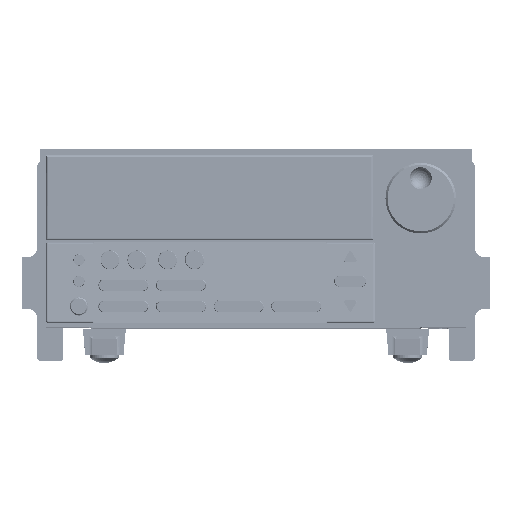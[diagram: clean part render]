
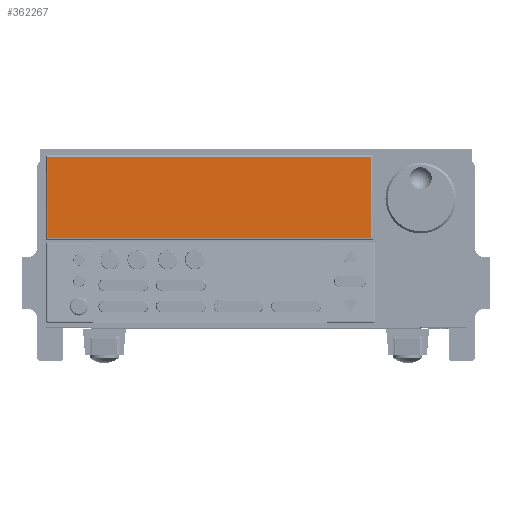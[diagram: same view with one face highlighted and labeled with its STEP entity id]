
A CAD part, top view. The second image highlights one B-rep face of the part: STEP entity #362267.
In plain terms, the highlighted planar face has unit normal (0, 0, 1).
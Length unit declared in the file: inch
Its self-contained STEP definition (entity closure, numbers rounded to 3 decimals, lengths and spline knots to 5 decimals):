
#362056=DIRECTION('',(1.,0.,0.));
#362057=VECTOR('',#362056,6.298);
#362058=CARTESIAN_POINT('',(0.035,0.035,0.093));
#362059=LINE('',#362058,#362057);
#362073=DIRECTION('',(0.,-1.,0.));
#362074=VECTOR('',#362073,1.578);
#362075=CARTESIAN_POINT('',(0.035,1.613,0.093));
#362076=LINE('',#362075,#362074);
#362099=DIRECTION('',(-1.,0.,0.));
#362100=VECTOR('',#362099,6.298);
#362101=CARTESIAN_POINT('',(6.333,1.613,0.093));
#362102=LINE('',#362101,#362100);
#362117=DIRECTION('',(0.,1.,0.));
#362118=VECTOR('',#362117,1.578);
#362119=CARTESIAN_POINT('',(6.333,0.035,0.093));
#362120=LINE('',#362119,#362118);
#362146=CARTESIAN_POINT('',(6.333,0.035,0.093));
#362147=CARTESIAN_POINT('',(6.333,1.613,0.093));
#362148=VERTEX_POINT('',#362146);
#362149=VERTEX_POINT('',#362147);
#362154=CARTESIAN_POINT('',(0.035,0.035,0.093));
#362155=VERTEX_POINT('',#362154);
#362158=CARTESIAN_POINT('',(0.035,1.613,0.093));
#362159=VERTEX_POINT('',#362158);
#362253=CARTESIAN_POINT('',(0.,0.,0.093));
#362254=DIRECTION('',(0.,0.,1.));
#362255=DIRECTION('',(1.,0.,0.));
#362256=AXIS2_PLACEMENT_3D('',#362253,#362254,#362255);
#362257=PLANE('',#362256);
#362259=ORIENTED_EDGE('',*,*,#362258,.F.);
#362261=ORIENTED_EDGE('',*,*,#362260,.F.);
#362263=ORIENTED_EDGE('',*,*,#362262,.F.);
#362264=ORIENTED_EDGE('',*,*,#362243,.F.);
#362265=EDGE_LOOP('',(#362259,#362261,#362263,#362264));
#362266=FACE_OUTER_BOUND('',#362265,.F.);
#362267=ADVANCED_FACE('',(#362266),#362257,.T.);
#362243=EDGE_CURVE('',#362155,#362148,#362059,.T.);
#362258=EDGE_CURVE('',#362159,#362155,#362076,.T.);
#362260=EDGE_CURVE('',#362149,#362159,#362102,.T.);
#362262=EDGE_CURVE('',#362148,#362149,#362120,.T.);
